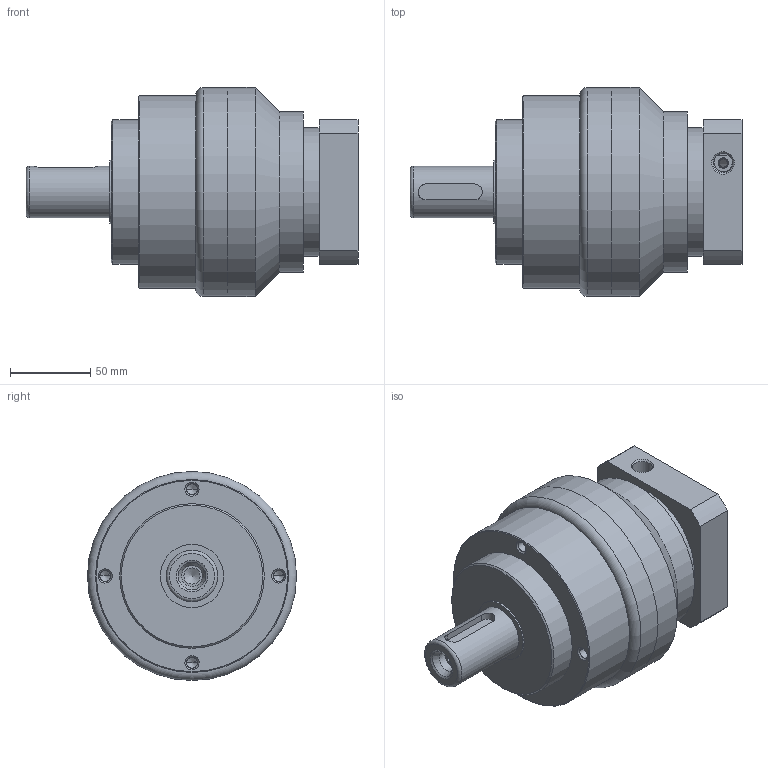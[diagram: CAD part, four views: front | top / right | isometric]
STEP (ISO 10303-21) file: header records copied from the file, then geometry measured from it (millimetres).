
FILE_DESCRIPTION(/* description */ (''),/* implementation_level */ '2;1');
FILE_NAME(/* name */ 'TE120-L2-19-70-90-M6-40-3.stp',/* time_stamp */ '2019-11-29T11:09:20+08:00',/* author */ (''),/* organization */ (''),/* preprocessor_version */ 'ST-DEVELOPER v16',/* originating_system */ 'SIEMENS PLM Software NX 10.0',/* authorisation */ '');
FILE_SCHEMA (('CONFIG_CONTROL_DESIGN'));
Length unit declared in the file: millimetre
Products named in the file (1): _model200
Bounding box: 206.51 x 130 x 130 mm (x, y, z)
Volume: 1492194.3 mm3; surface area: 163346.4 mm2
Topology: 6 solids, 6 shells, 182 faces, 453 edges, 292 vertices
Faces by surface type: cylinder 67, plane 64, cone 40, bspline 7, torus 4
Full cylindrical faces by diameter (mm): 5.1 x4, 5.2 x1, 5.5 x6, 6.5 x1, 6.8 x1, 9 x6, 10.1 x1, 12.1 x1, 13 x1, 19 x1, 22.5 x1, 26.6 x1, 27.5 x1, 28 x2, 31 x1, 32 x1, 55 x1, 80 x1, 80.013 x1, 90 x1, 100 x1, 120 x1, 130 x1
Entity records: 5542 total; most frequent: CARTESIAN_POINT 1495, DIRECTION 836, ORIENTED_EDGE 714, EDGE_CURVE 357, AXIS2_PLACEMENT_3D 349, EDGE_LOOP 277, VERTEX_POINT 268, FACE_BOUND 186
